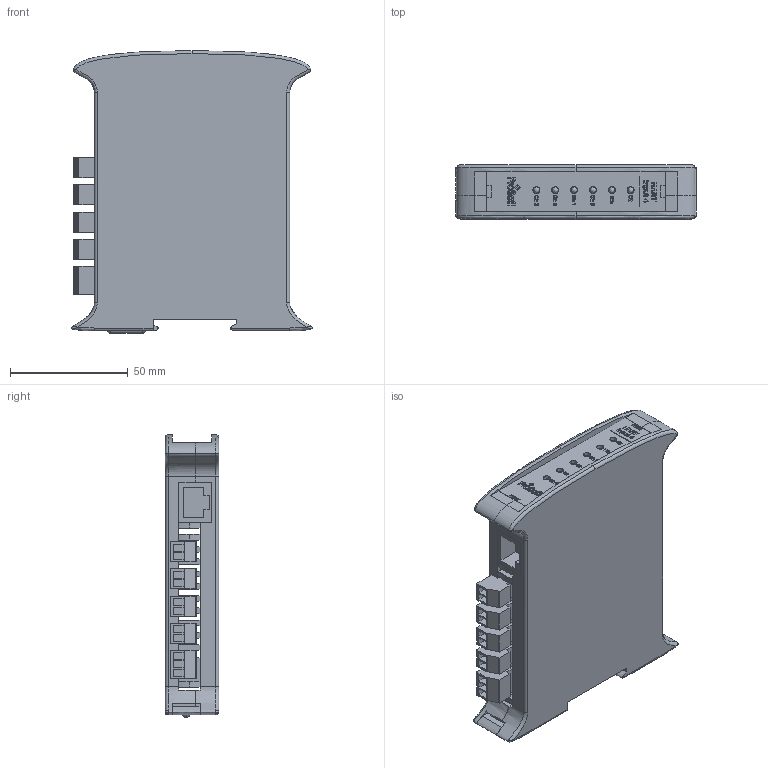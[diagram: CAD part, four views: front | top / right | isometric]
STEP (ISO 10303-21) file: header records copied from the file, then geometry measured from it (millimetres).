
FILE_DESCRIPTION (( 'STEP AP214' ), '1' );
FILE_NAME ('D135-010 PLX51-HART4 I R 1.0.STEP', '2019-10-08T17:35:20', ( '' ), ( '' ), 'SwSTEP 2.0', 'SolidWorks 2015', '' );
FILE_SCHEMA (( 'AUTOMOTIVE_DESIGN' ));
Length unit declared in the file: millimetre
Products named in the file (11): plugs_2_2; Light_4; clip_4; plugs_5; dipswitch_4; ethernetport_4; Part1_3; enclosure_4; enclosure_bottom_3; faceplate_Hart-4 IN; D135-010 PLX51-HART4 I R 1.0
Assembly tree (34 placements, depth 2):
  D135-010 PLX51-HART4 I R 1.0
    faceplate_Hart-4 IN
    enclosure_bottom_3
    enclosure_4
    Part1_3  x17
    ethernetport_4
    dipswitch_4
    plugs_5
    clip_4
    Light_4  x6
    plugs_2_2  x4
Bounding box: 102.12 x 22.8 x 120 mm (x, y, z)
Volume: 83135.2 mm3; surface area: 63923.2 mm2
Topology: 57 solids, 57 shells, 1237 faces, 3101 edges, 2030 vertices
Faces by surface type: plane 967, bspline 194, cylinder 76
Entity records: 48749 total; most frequent: CARTESIAN_POINT 21643, ORIENTED_EDGE 4052, DIRECTION 2952, EDGE_CURVE 2026, VECTOR 1572, LINE 1572, VERTEX_POINT 1342, EDGE_LOOP 858
